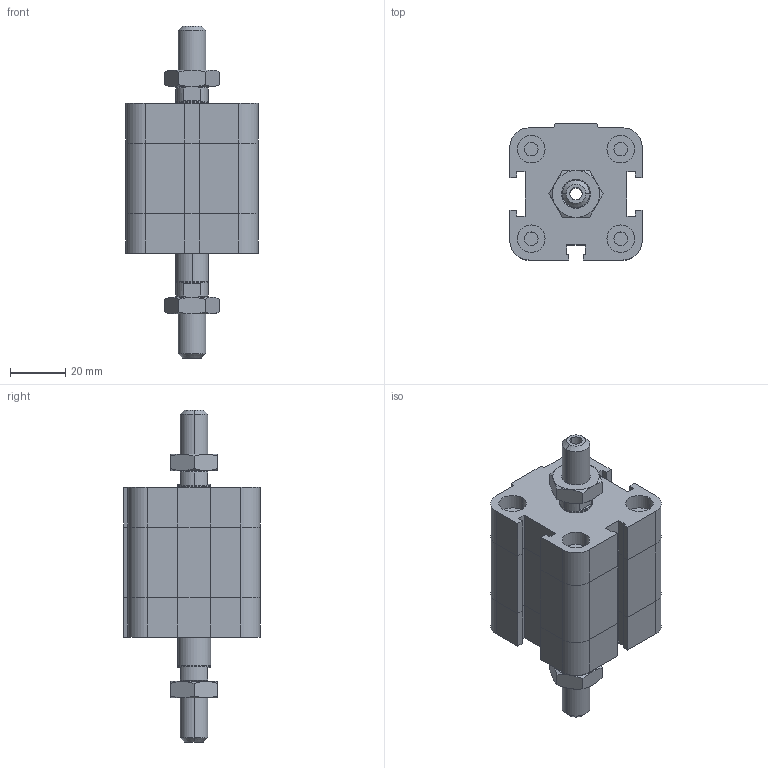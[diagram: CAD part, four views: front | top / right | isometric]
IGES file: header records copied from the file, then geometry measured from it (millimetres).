
Global section: file name: No Iges File Name specified; native system: Autodesk Inventor 2009; preprocessor: AutoDesk Inventor Iges Exporter R2009; author: maffial1; date: 20090420.142505; units: millimetre
Bounding box: 48 x 49.5 x 120.5 mm (x, y, z)
Volume: 113918.8 mm3; surface area: 29930.6 mm2
Topology: 4 solids, 4 shells, 262 faces, 580 edges, 346 vertices
Faces by surface type: plane 129, bspline 53, cone 38, cylinder 22, revolution 20
